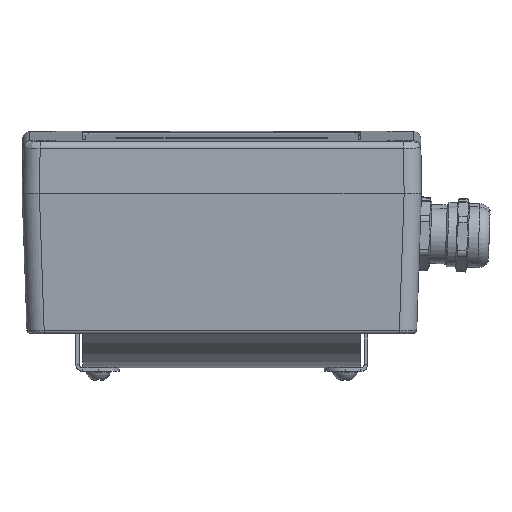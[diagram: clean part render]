
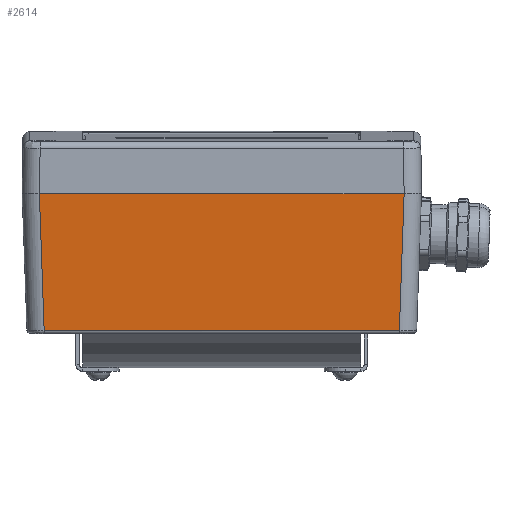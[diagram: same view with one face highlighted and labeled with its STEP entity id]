
A CAD part, top view. The second image highlights one B-rep face of the part: STEP entity #2614.
In plain terms, the highlighted planar face has unit normal (0, -0.07, 0.998).
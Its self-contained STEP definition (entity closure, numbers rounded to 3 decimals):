
#2614=ADVANCED_FACE('',(#10367),#10369,.T.);
#10367=FACE_BOUND('',#10368,.T.);
#10368=EDGE_LOOP('',(#23362,#23363,#23364,#23365,#23366,#23367));
#10369=PLANE('',#10370);
#10370=AXIS2_PLACEMENT_3D('',#10371,#10372,#10373);
#10371=CARTESIAN_POINT('',(-57.5,19.917,173.945));
#10372=DIRECTION('',(0.,-0.07,0.998));
#10373=DIRECTION('',(-1.,0.,0.));
#23362=ORIENTED_EDGE('',*,*,#27331,.F.);
#23363=ORIENTED_EDGE('',*,*,#27332,.T.);
#23364=ORIENTED_EDGE('',*,*,#27263,.F.);
#23365=ORIENTED_EDGE('',*,*,#27194,.F.);
#23366=ORIENTED_EDGE('',*,*,#27244,.F.);
#23367=ORIENTED_EDGE('',*,*,#27333,.T.);
#27194=EDGE_CURVE('',#29914,#29917,#29918,.T.);
#27244=EDGE_CURVE('',#30007,#29914,#30009,.T.);
#27263=EDGE_CURVE('',#29917,#30038,#30039,.T.);
#27331=EDGE_CURVE('',#30149,#30150,#30151,.F.);
#27332=EDGE_CURVE('',#30149,#30038,#30152,.T.);
#27333=EDGE_CURVE('',#30007,#30150,#30153,.T.);
#29914=VERTEX_POINT('',#36445);
#29917=VERTEX_POINT('',#36468);
#29918=LINE('',#36469,#36470);
#30007=VERTEX_POINT('',#36703);
#30009=LINE('',#36708,#36709);
#30038=VERTEX_POINT('',#36781);
#30039=LINE('',#36782,#36783);
#30149=VERTEX_POINT('',#37051);
#30150=VERTEX_POINT('',#37052);
#30151=LINE('',#37053,#37054);
#30152=LINE('',#37056,#37057);
#30153=LINE('',#37059,#37060);
#36445=CARTESIAN_POINT('',(51.122,-19.545,171.186));
#36468=CARTESIAN_POINT('',(-51.122,-19.545,171.186));
#36469=CARTESIAN_POINT('',(51.122,-19.545,171.186));
#36470=VECTOR('',#36471,1.);
#36471=DIRECTION('',(-1.,0.,0.));
#36703=CARTESIAN_POINT('',(52.503,19.917,173.945));
#36708=CARTESIAN_POINT('',(52.503,19.917,173.945));
#36709=VECTOR('',#36710,1.);
#36710=DIRECTION('',(-0.035,-0.997,-0.07));
#36781=CARTESIAN_POINT('',(-52.503,19.917,173.945));
#36782=CARTESIAN_POINT('',(-51.122,-19.545,171.186));
#36783=VECTOR('',#36784,1.);
#36784=DIRECTION('',(-0.035,0.997,0.07));
#37051=CARTESIAN_POINT('',(-52.501,19.917,173.945));
#37052=CARTESIAN_POINT('',(52.501,19.917,173.945));
#37053=CARTESIAN_POINT('',(52.501,19.917,173.945));
#37054=VECTOR('',#37055,1.);
#37055=DIRECTION('',(-1.,0.,0.));
#37056=CARTESIAN_POINT('',(-52.501,19.917,173.945));
#37057=VECTOR('',#37058,1.);
#37058=DIRECTION('',(-1.,0.,0.));
#37059=CARTESIAN_POINT('',(52.503,19.917,173.945));
#37060=VECTOR('',#37061,1.);
#37061=DIRECTION('',(-1.,0.,0.));
